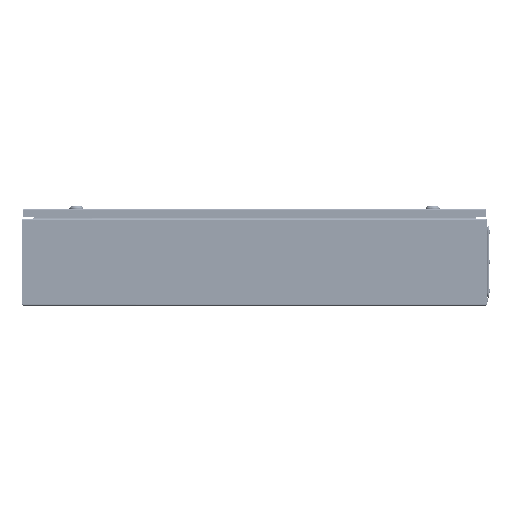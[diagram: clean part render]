
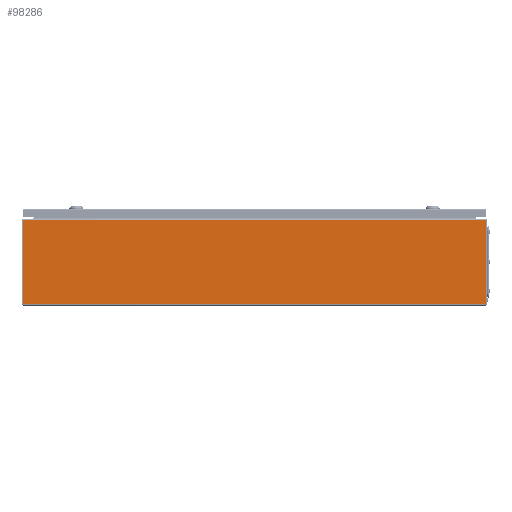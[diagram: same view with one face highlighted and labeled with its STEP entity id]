
A CAD part, left-side view. The second image highlights one B-rep face of the part: STEP entity #98286.
In plain terms, the highlighted planar face has unit normal (-1, 0, 0).
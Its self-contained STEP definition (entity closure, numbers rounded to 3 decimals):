
#6077 = DIRECTION ( 'NONE',  ( 1., 0., 0. ) ) ;
#7864 = VERTEX_POINT ( 'NONE', #161057 ) ;
#9616 = VECTOR ( 'NONE', #127183, 1000. ) ;
#9694 = DIRECTION ( 'NONE',  ( 0., 0., 1. ) ) ;
#25167 = LINE ( 'NONE', #96649, #40807 ) ;
#31367 = CARTESIAN_POINT ( 'NONE',  ( -300., -498.423, 2.9 ) ) ;
#40210 = VECTOR ( 'NONE', #220144, 1000. ) ;
#40807 = VECTOR ( 'NONE', #124143, 1000. ) ;
#47284 = DIRECTION ( 'NONE',  ( 0., 1., 0. ) ) ;
#48859 = VECTOR ( 'NONE', #294540, 1000. ) ;
#50783 = EDGE_LOOP ( 'NONE', ( #85637, #190424, #285695, #223479, #131596, #71715, #174999, #256964 ) ) ;
#51991 = EDGE_CURVE ( 'NONE', #78152, #295400, #136460, .T. ) ;
#57227 = LINE ( 'NONE', #31367, #9616 ) ;
#59400 = DIRECTION ( 'NONE',  ( 0., 0., -1. ) ) ;
#71715 = ORIENTED_EDGE ( 'NONE', *, *, #184604, .T. ) ;
#78152 = VERTEX_POINT ( 'NONE', #128687 ) ;
#80890 = AXIS2_PLACEMENT_3D ( 'NONE', #109817, #6077, #59400 ) ;
#83047 = DIRECTION ( 'NONE',  ( 0., 1., 0. ) ) ;
#85637 = ORIENTED_EDGE ( 'NONE', *, *, #273443, .T. ) ;
#87369 = CARTESIAN_POINT ( 'NONE',  ( -300., -498.423, 183.85 ) ) ;
#87969 = VERTEX_POINT ( 'NONE', #87369 ) ;
#91874 = DIRECTION ( 'NONE',  ( 0., 1., 0. ) ) ;
#93479 = LINE ( 'NONE', #234357, #216948 ) ;
#96649 = CARTESIAN_POINT ( 'NONE',  ( -300., 498.529, 2.9 ) ) ;
#97013 = CARTESIAN_POINT ( 'NONE',  ( -300., 498.529, 183.85 ) ) ;
#98286 = ADVANCED_FACE ( 'NONE', ( #228012 ), #182624, .F. ) ;
#100275 = EDGE_CURVE ( 'NONE', #169093, #307934, #148983, .T. ) ;
#109817 = CARTESIAN_POINT ( 'NONE',  ( -300., -5500., 183.85 ) ) ;
#124143 = DIRECTION ( 'NONE',  ( 0., 0., 1. ) ) ;
#127183 = DIRECTION ( 'NONE',  ( 0., -1., 0. ) ) ;
#128687 = CARTESIAN_POINT ( 'NONE',  ( -300., 498.529, 183.85 ) ) ;
#131596 = ORIENTED_EDGE ( 'NONE', *, *, #180687, .F. ) ;
#133003 = CARTESIAN_POINT ( 'NONE',  ( -300., -498.529, 2.9 ) ) ;
#136460 = LINE ( 'NONE', #97013, #48859 ) ;
#137098 = CARTESIAN_POINT ( 'NONE',  ( -300., -498.529, 183.85 ) ) ;
#141669 = VERTEX_POINT ( 'NONE', #137098 ) ;
#147392 = CARTESIAN_POINT ( 'NONE',  ( -300., 498.423, 2.9 ) ) ;
#148983 = LINE ( 'NONE', #147392, #40210 ) ;
#161057 = CARTESIAN_POINT ( 'NONE',  ( -300., -498.529, 2.9 ) ) ;
#163823 = CARTESIAN_POINT ( 'NONE',  ( -300., 498.423, 183.85 ) ) ;
#169093 = VERTEX_POINT ( 'NONE', #172102 ) ;
#172102 = CARTESIAN_POINT ( 'NONE',  ( -300., 498.423, 2.9 ) ) ;
#174999 = ORIENTED_EDGE ( 'NONE', *, *, #276551, .T. ) ;
#178270 = VERTEX_POINT ( 'NONE', #221112 ) ;
#180687 = EDGE_CURVE ( 'NONE', #178270, #169093, #243277, .T. ) ;
#181543 = LINE ( 'NONE', #133003, #299031 ) ;
#182624 = PLANE ( 'NONE',  #80890 ) ;
#184604 = EDGE_CURVE ( 'NONE', #178270, #7864, #57227, .T. ) ;
#190424 = ORIENTED_EDGE ( 'NONE', *, *, #51991, .F. ) ;
#203704 = EDGE_CURVE ( 'NONE', #307934, #78152, #25167, .T. ) ;
#209464 = VECTOR ( 'NONE', #83047, 1000. ) ;
#216948 = VECTOR ( 'NONE', #91874, 1000. ) ;
#219080 = CARTESIAN_POINT ( 'NONE',  ( -300., -5500., 2.9 ) ) ;
#220144 = DIRECTION ( 'NONE',  ( 0., 1., 0. ) ) ;
#220604 = EDGE_CURVE ( 'NONE', #141669, #87969, #93479, .T. ) ;
#221112 = CARTESIAN_POINT ( 'NONE',  ( -300., -498.423, 2.9 ) ) ;
#223479 = ORIENTED_EDGE ( 'NONE', *, *, #100275, .F. ) ;
#228012 = FACE_OUTER_BOUND ( 'NONE', #50783, .T. ) ;
#232665 = CARTESIAN_POINT ( 'NONE',  ( -300., 498.529, 2.9 ) ) ;
#234357 = CARTESIAN_POINT ( 'NONE',  ( -300., -498.529, 183.85 ) ) ;
#243277 = LINE ( 'NONE', #219080, #302816 ) ;
#254772 = LINE ( 'NONE', #257891, #209464 ) ;
#256964 = ORIENTED_EDGE ( 'NONE', *, *, #220604, .T. ) ;
#257891 = CARTESIAN_POINT ( 'NONE',  ( -300., -5500., 183.85 ) ) ;
#273443 = EDGE_CURVE ( 'NONE', #87969, #295400, #254772, .T. ) ;
#276551 = EDGE_CURVE ( 'NONE', #7864, #141669, #181543, .T. ) ;
#285695 = ORIENTED_EDGE ( 'NONE', *, *, #203704, .F. ) ;
#294540 = DIRECTION ( 'NONE',  ( 0., -1., 0. ) ) ;
#295400 = VERTEX_POINT ( 'NONE', #163823 ) ;
#299031 = VECTOR ( 'NONE', #9694, 1000. ) ;
#302816 = VECTOR ( 'NONE', #47284, 1000. ) ;
#307934 = VERTEX_POINT ( 'NONE', #232665 ) ;
